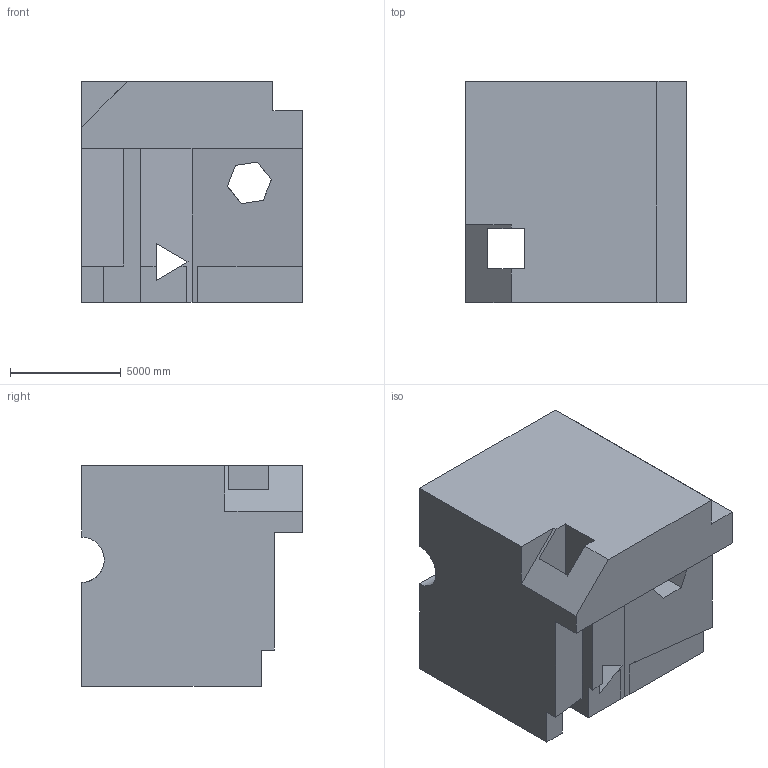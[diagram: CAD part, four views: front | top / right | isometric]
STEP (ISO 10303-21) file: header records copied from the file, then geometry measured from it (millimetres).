
FILE_DESCRIPTION (( 'STEP AP203' ), '1' );
FILE_NAME ('723.STEP', '2022-07-29T12:45:58', ( 'user' ), ( '' ), 'SwSTEP 2.0', 'SolidWorks 2021', '' );
FILE_SCHEMA (( 'CONFIG_CONTROL_DESIGN' ));
Length unit declared in the file: centimetre
Products named in the file (1): 723
Bounding box: 10000 x 10000 x 10000 mm (x, y, z)
Volume: 783927437954.1 mm3; surface area: 705437464.8 mm2
Topology: 1 solids, 1 shells, 36 faces, 114 edges, 76 vertices
Faces by surface type: plane 35, cylinder 1
Entity records: 1329 total; most frequent: CARTESIAN_POINT 242, ORIENTED_EDGE 228, DIRECTION 185, EDGE_CURVE 114, VECTOR 107, LINE 107, VERTEX_POINT 76, AXIS2_PLACEMENT_3D 39
